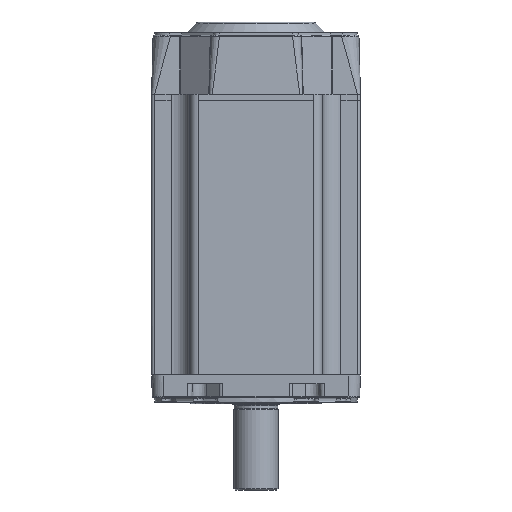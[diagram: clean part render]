
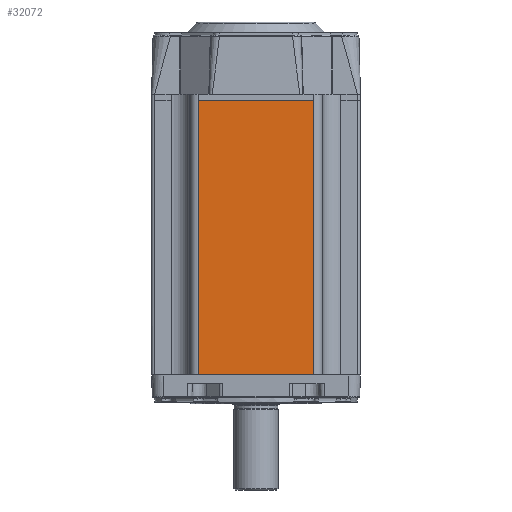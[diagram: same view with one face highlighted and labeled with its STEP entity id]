
A CAD part, front view. The second image highlights one B-rep face of the part: STEP entity #32072.
In plain terms, the highlighted planar face has unit normal (0, -1, 0).
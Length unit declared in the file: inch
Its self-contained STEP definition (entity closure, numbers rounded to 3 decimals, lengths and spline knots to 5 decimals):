
#29852=CARTESIAN_POINT('',(1.2275,-2.225,-5.84));
#29853=VERTEX_POINT('',#29852);
#29860=CARTESIAN_POINT('',(-1.2275,-2.225,-5.84));
#29861=VERTEX_POINT('',#29860);
#29862=CARTESIAN_POINT('',(-1.2275,-2.225,-5.84));
#29863=DIRECTION('',(1.0,0.0,0.0));
#29864=VECTOR('',#29863,2.455);
#29865=LINE('',#29862,#29864);
#29866=EDGE_CURVE('',#29861,#29853,#29865,.T.);
#31973=CARTESIAN_POINT('',(1.2275,-2.225,0.));
#31974=VERTEX_POINT('',#31973);
#31975=CARTESIAN_POINT('',(1.2275,-2.225,0.));
#31976=DIRECTION('',(0.0,0.0,-1.0));
#31977=VECTOR('',#31976,5.84);
#31978=LINE('',#31975,#31977);
#31979=EDGE_CURVE('',#31974,#29853,#31978,.T.);
#32049=CARTESIAN_POINT('',(1.415,-2.225,0.0));
#32050=DIRECTION('',(0.0,-1.0,0.0));
#32051=DIRECTION('',(0.0,0.0,-1.0));
#32052=AXIS2_PLACEMENT_3D('',#32049,#32050,#32051);
#32053=PLANE('',#32052);
#32054=CARTESIAN_POINT('',(-1.2275,-2.225,0.));
#32055=VERTEX_POINT('',#32054);
#32056=CARTESIAN_POINT('',(1.2275,-2.225,0.));
#32057=DIRECTION('',(-1.0,0.0,0.0));
#32058=VECTOR('',#32057,2.455);
#32059=LINE('',#32056,#32058);
#32060=EDGE_CURVE('',#31974,#32055,#32059,.T.);
#32061=ORIENTED_EDGE('',*,*,#32060,.T.);
#32062=CARTESIAN_POINT('',(-1.2275,-2.225,-5.84));
#32063=DIRECTION('',(0.0,0.0,1.0));
#32064=VECTOR('',#32063,5.84);
#32065=LINE('',#32062,#32064);
#32066=EDGE_CURVE('',#29861,#32055,#32065,.T.);
#32067=ORIENTED_EDGE('',*,*,#32066,.F.);
#32068=ORIENTED_EDGE('',*,*,#29866,.T.);
#32069=ORIENTED_EDGE('',*,*,#31979,.F.);
#32070=EDGE_LOOP('',(#32061,#32067,#32068,#32069));
#32071=FACE_OUTER_BOUND('',#32070,.T.);
#32072=ADVANCED_FACE('',(#32071),#32053,.T.);
